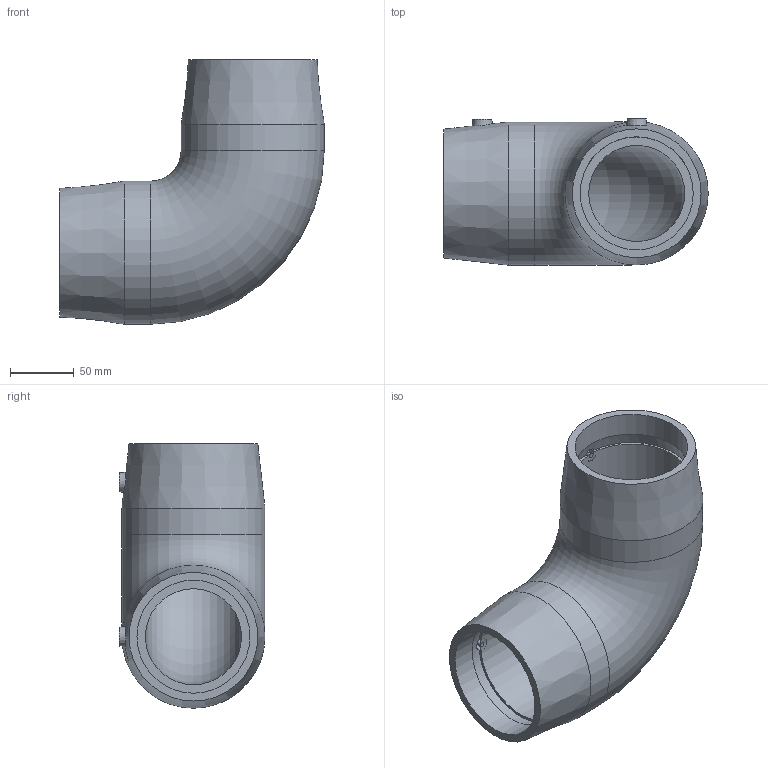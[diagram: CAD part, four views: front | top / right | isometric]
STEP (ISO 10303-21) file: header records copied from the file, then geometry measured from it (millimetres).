
FILE_DESCRIPTION(/* description */ ('PLASSON 90° ELBOW ASTM 3'''''),/* implementation_level */ '2;1');
FILE_NAME(/* name */ 'C:\Dropbox\KIMPROJECTS-Inventor 2019\99-16-3568-Processing Inch\ASTM ElectroFusion 2021\5905B\5905B003030.ipt.stp',/* time_stamp */ '2021-08-30T09:49:52+03:00',/* author */ ('KIM'),/* organization */ (''),/* preprocessor_version */ 'ST-DEVELOPER v17.2',/* originating_system */ 'Autodesk Inventor 2019',/* authorisation */ '');
FILE_SCHEMA (('AUTOMOTIVE_DESIGN { 1 0 10303 214 3 1 1 }'));
Length unit declared in the file: inch
Products named in the file (1): 5905B003030
Bounding box: 207.54 x 114.55 x 207.54 mm (x, y, z)
Volume: 1112411.6 mm3; surface area: 172510.7 mm2
Topology: 1 solids, 1 shells, 32 faces, 89 edges, 63 vertices
Faces by surface type: plane 12, cylinder 10, cone 8, torus 2
Full cylindrical faces by diameter (mm): 4 x2, 10 x2, 88.7 x4, 112.268 x2
Entity records: 1233 total; most frequent: CARTESIAN_POINT 305, DIRECTION 200, ORIENTED_EDGE 178, EDGE_CURVE 89, AXIS2_PLACEMENT_3D 86, VERTEX_POINT 63, CIRCLE 53, EDGE_LOOP 42
